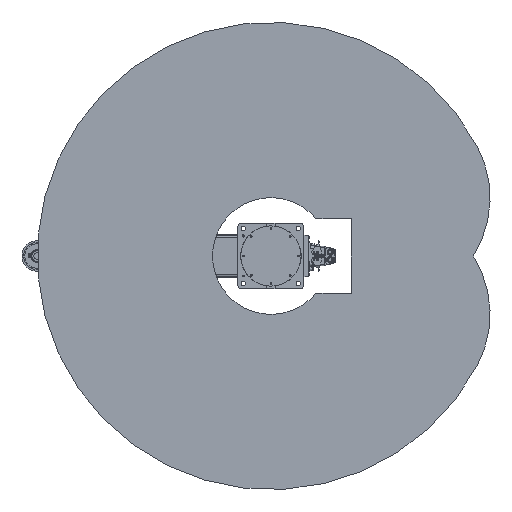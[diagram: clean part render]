
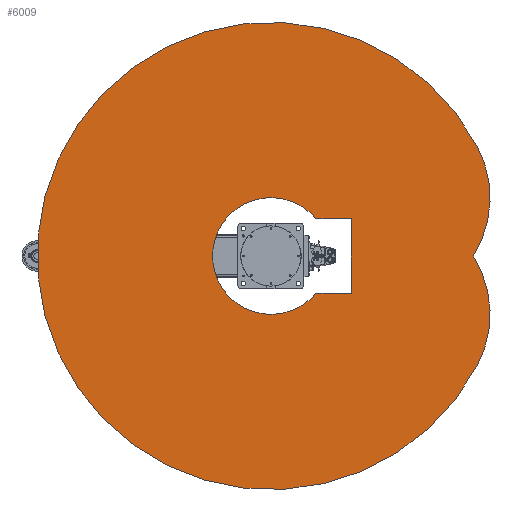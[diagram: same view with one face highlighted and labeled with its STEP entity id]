
A CAD part, front view. The second image highlights one B-rep face of the part: STEP entity #6009.
In plain terms, the highlighted planar face has unit normal (0, -1, 0).
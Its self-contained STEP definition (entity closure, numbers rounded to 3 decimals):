
#6009 = ADVANCED_FACE( '', ( #13528, #13529 ), #13530, .F. );
#13528 = FACE_BOUND( '', #22917, .T. );
#13529 = FACE_OUTER_BOUND( '', #22918, .T. );
#13530 = PLANE( '', #22919 );
#22917 = EDGE_LOOP( '', ( #40169, #40170, #40171, #40172 ) );
#22918 = EDGE_LOOP( '', ( #40173, #40174, #40175 ) );
#22919 = AXIS2_PLACEMENT_3D( '', #40176, #40177, #40178 );
#40169 = ORIENTED_EDGE( '', *, *, #50485, .T. );
#40170 = ORIENTED_EDGE( '', *, *, #50182, .T. );
#40171 = ORIENTED_EDGE( '', *, *, #53086, .T. );
#40172 = ORIENTED_EDGE( '', *, *, #53468, .T. );
#40173 = ORIENTED_EDGE( '', *, *, #53469, .F. );
#40174 = ORIENTED_EDGE( '', *, *, #53470, .F. );
#40175 = ORIENTED_EDGE( '', *, *, #53471, .F. );
#40176 = CARTESIAN_POINT( '', ( 105.631, 0., 198.663 ) );
#40177 = DIRECTION( '', ( 0., 1., 0. ) );
#40178 = DIRECTION( '', ( 0., 0., 1. ) );
#50182 = EDGE_CURVE( '', #60321, #60322, #60323, .T. );
#50485 = EDGE_CURVE( '', #60807, #60321, #60808, .T. );
#53086 = EDGE_CURVE( '', #60322, #64519, #64520, .T. );
#53468 = EDGE_CURVE( '', #64519, #60807, #65000, .T. );
#53469 = EDGE_CURVE( '', #65001, #65002, #65003, .T. );
#53470 = EDGE_CURVE( '', #65004, #65001, #65005, .T. );
#53471 = EDGE_CURVE( '', #65002, #65004, #65006, .T. );
#60321 = VERTEX_POINT( '', #75732 );
#60322 = VERTEX_POINT( '', #75733 );
#60323 = CIRCLE( '', #75734, 212.4 );
#60807 = VERTEX_POINT( '', #76635 );
#60808 = LINE( '', #76636, #76637 );
#64519 = VERTEX_POINT( '', #82807 );
#64520 = LINE( '', #82808, #82809 );
#65000 = LINE( '', #83507, #83508 );
#65001 = VERTEX_POINT( '', #83509 );
#65002 = VERTEX_POINT( '', #83510 );
#65003 = CIRCLE( '', #83511, 400. );
#65004 = VERTEX_POINT( '', #83512 );
#65005 = CIRCLE( '', #83513, 400. );
#65006 = CIRCLE( '', #83514, 850. );
#75732 = CARTESIAN_POINT( '', ( 135., 0., 163.978 ) );
#75733 = CARTESIAN_POINT( '', ( -135., 0., 163.978 ) );
#75734 = AXIS2_PLACEMENT_3D( '', #89953, #89954, #89955 );
#76635 = CARTESIAN_POINT( '', ( 135., 0., 292. ) );
#76636 = CARTESIAN_POINT( '', ( 135., 0., 292. ) );
#76637 = VECTOR( '', #90333, 1000. );
#82807 = CARTESIAN_POINT( '', ( -135., 0., 292. ) );
#82808 = CARTESIAN_POINT( '', ( -135., 0., 163.978 ) );
#82809 = VECTOR( '', #93359, 1000. );
#83507 = CARTESIAN_POINT( '', ( -135., 0., 292. ) );
#83508 = VECTOR( '', #93751, 1000. );
#83509 = CARTESIAN_POINT( '', ( 0., 0., 736.985 ) );
#83510 = CARTESIAN_POINT( '', ( 399.051, 0., 750.505 ) );
#83511 = AXIS2_PLACEMENT_3D( '', #93752, #93753, #93754 );
#83512 = CARTESIAN_POINT( '', ( -399.051, 0., 750.505 ) );
#83513 = AXIS2_PLACEMENT_3D( '', #93755, #93756, #93757 );
#83514 = AXIS2_PLACEMENT_3D( '', #93758, #93759, #93760 );
#89953 = CARTESIAN_POINT( '', ( 0., 0., 0. ) );
#89954 = DIRECTION( '', ( 0., 1., 0. ) );
#89955 = DIRECTION( '', ( 1., 0., 0. ) );
#90333 = DIRECTION( '', ( 0., 0., -1. ) );
#93359 = DIRECTION( '', ( 0., 0., 1. ) );
#93751 = DIRECTION( '', ( 1., 0., 0. ) );
#93752 = CARTESIAN_POINT( '', ( 211.262, 0., 397.326 ) );
#93753 = DIRECTION( '', ( 0., 1., 0. ) );
#93754 = DIRECTION( '', ( 1., 0., 0. ) );
#93755 = CARTESIAN_POINT( '', ( -211.262, 0., 397.326 ) );
#93756 = DIRECTION( '', ( 0., 1., 0. ) );
#93757 = DIRECTION( '', ( 1., 0., 0. ) );
#93758 = CARTESIAN_POINT( '', ( 0., 0., 0. ) );
#93759 = DIRECTION( '', ( 0., 1., 0. ) );
#93760 = DIRECTION( '', ( 1., 0., 0. ) );
